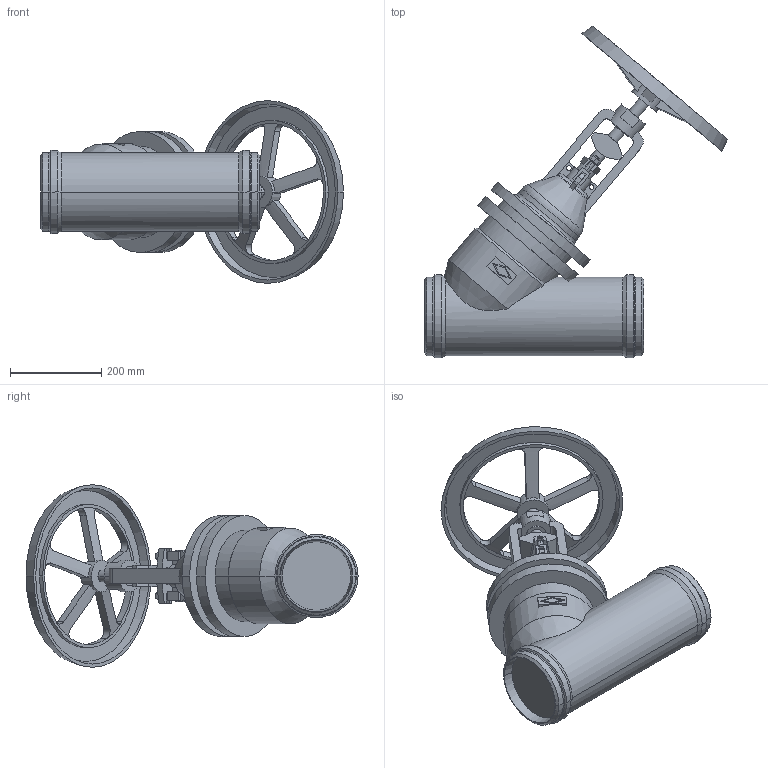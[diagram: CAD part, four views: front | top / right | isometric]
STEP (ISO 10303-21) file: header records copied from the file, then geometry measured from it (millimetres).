
FILE_DESCRIPTION(('OneSpaceDesigner STEP Export'),'2;1');
FILE_NAME('c000004367.stp','2010-05-11T 8:14:30',(''),(''),'OneSpace Designer STEP processor for AP214 (Solid Model)','OneSpace Modeling 15.50B 03-Nov-2007 (C) CoCreate Software GmbH','');
FILE_SCHEMA(('AUTOMOTIVE_DESIGN { 1 0 10303 214 1 1 1 1 }'));
Length unit declared in the file: millimetre
Products named in the file (1): 1
Bounding box: 663.17 x 726.84 x 400 mm (x, y, z)
Volume: 20928166.6 mm3; surface area: 930028.7 mm2
Topology: 1 solids, 1 shells, 290 faces, 750 edges, 481 vertices
Faces by surface type: plane 145, cylinder 87, cone 40, torus 18
Entity records: 11173 total; most frequent: CARTESIAN_POINT 2229, ORIENTED_EDGE 1500, DIRECTION 1213, EDGE_CURVE 750, VERTEX_POINT 481, AXIS2_PLACEMENT_3D 407, VECTOR 399, LINE 399
